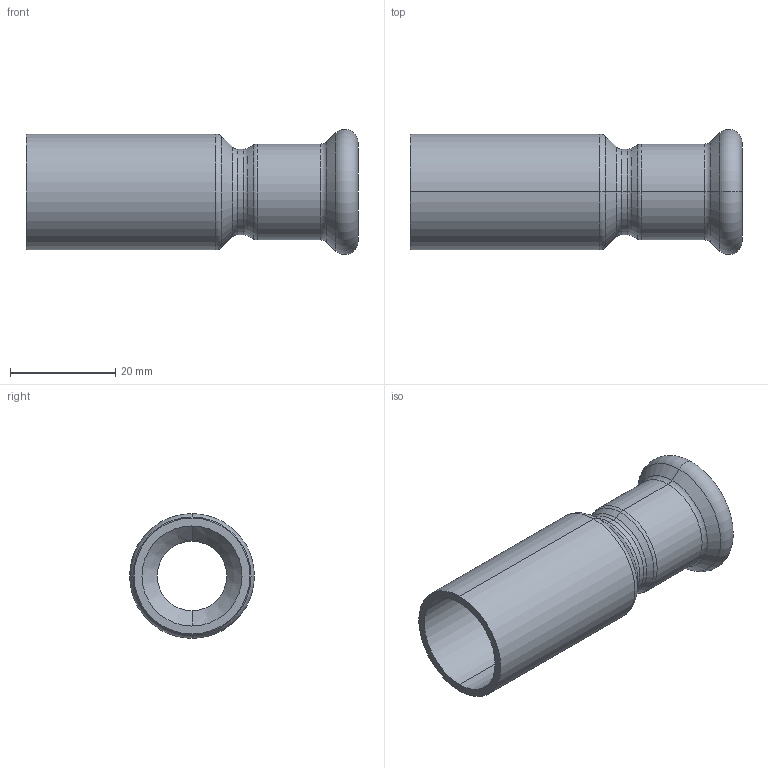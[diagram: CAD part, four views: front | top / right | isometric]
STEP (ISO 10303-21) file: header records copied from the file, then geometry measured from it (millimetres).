
FILE_DESCRIPTION (( 'STEP AP214' ), '1' );
FILE_NAME ('R22150B.STEP', '2025-08-18T00:18:52', ( '' ), ( '' ), 'SwSTEP 2.0', 'SolidWorks 2020', '' );
FILE_SCHEMA (( 'AUTOMOTIVE_DESIGN' ));
Length unit declared in the file: millimetre
Products named in the file (1): R22150B
Bounding box: 63 x 23.7 x 23.7 mm (x, y, z)
Volume: 6218.7 mm3; surface area: 8285 mm2
Topology: 1 solids, 1 shells, 45 faces, 90 edges, 48 vertices
Faces by surface type: torus 16, cylinder 14, cone 12, plane 3
Entity records: 1242 total; most frequent: DIRECTION 246, CARTESIAN_POINT 184, ORIENTED_EDGE 180, AXIS2_PLACEMENT_3D 110, EDGE_CURVE 90, CIRCLE 64, EDGE_LOOP 48, VERTEX_POINT 48
